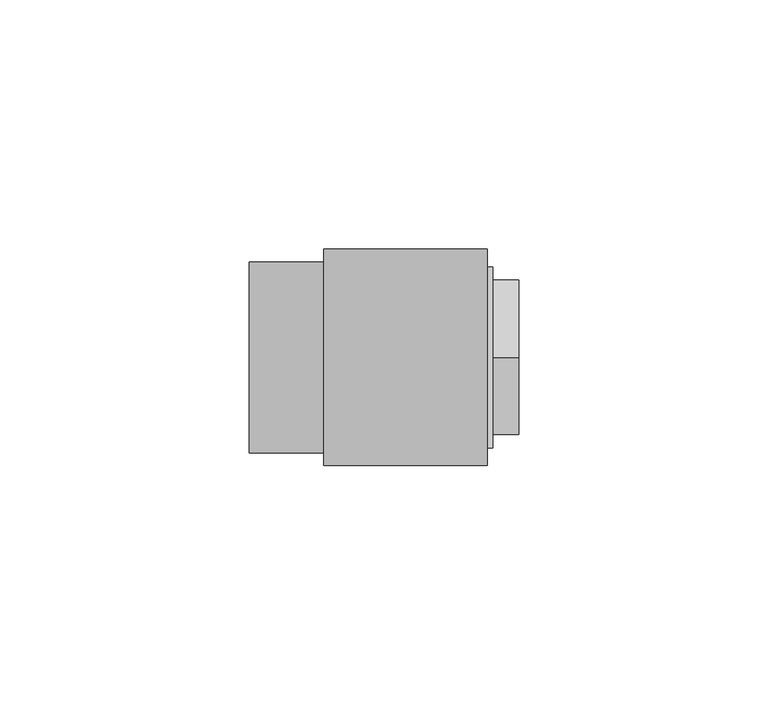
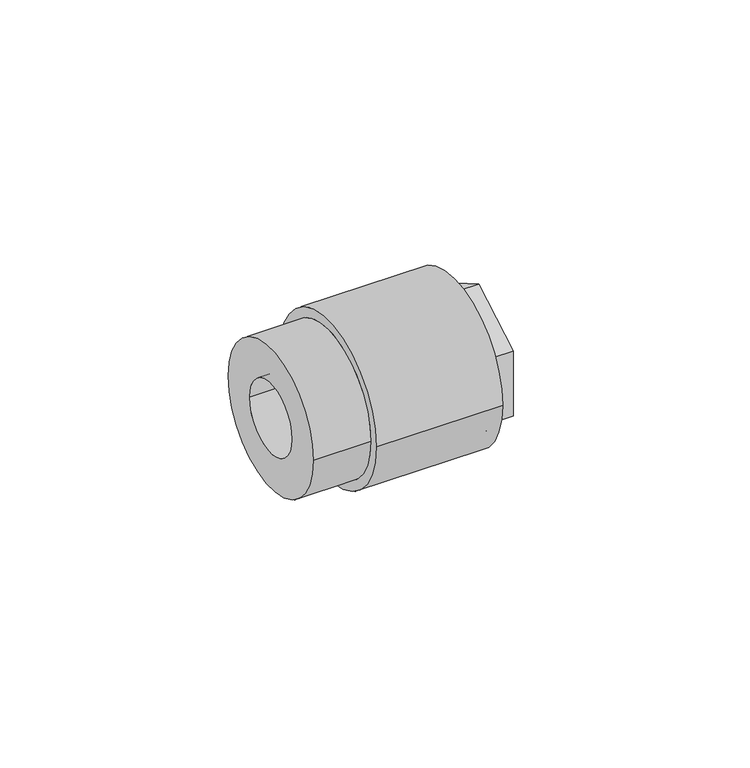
"""IFC4 building model written with IfcOpenShell, lengths in millimetres: pipe fitting geometry, Aquatherm - Fusion Outlet Transition Female : POTABLE BRASS - HEX."""

from ifc_helpers import new_model, si_unit, frame, origin, place, context, project, spatial, polyline, circle_curve, source, transform, mapped, element, save
from ifc_brep_helpers import plane_surface, cylinder_surface, revolved_surface, advanced_brep


def pipe_fitting_d414e5d5(model_context):
    return source(origin(), model_context, "Body", "AdvancedBrep", [
        advanced_brep(
        [(25.62225, 12.7, 0.0), (25.62225, -12.7, 0.0), (36.5363125, -12.7, 0.0), (36.5363125, 12.7, 0.0), (25.62225, 13.49375, 0.0), (25.62225, -13.49375, 0.0), (22.44725, 13.49375, 0.0), (22.44725, -13.49375, 0.0), (22.44725, 9.525, 0.0), (22.44725, -9.525, 0.0), (19.27225, 9.525, 0.0), (19.27225, -9.525, 0.0), (19.27225, 19.177, 0.0), (19.27225, -19.177, 0.0), (32.766, 19.177, 0.0), (32.766, -19.177, 0.0), (39.116, 13.49375, 0.0), (39.116, -13.49375, 0.0), (39.116, -15.494, 0.0), (39.116, -15.494, -8.9454651), (39.116, 0.0, -17.8909301), (39.116, 15.494, -8.9454651), (39.116, 15.494, 0.0), (39.116, 15.494, 8.9454651), (39.116, 0.0, 17.8909301), (39.116, -15.494, 8.9454651), (32.766, 18.161, 0.0), (32.766, -18.161, 0.0), (33.956625, 18.161, 0.0), (33.956625, -18.161, 0.0), (33.956625, 0.0, -17.8909301), (33.956625, -15.494, -8.9454651), (33.956625, -15.494, 8.9454651), (33.956625, 0.0, 17.8909301), (33.956625, 15.494, 8.9454651), (33.956625, 15.494, -8.9454651)],
        [
            (0, 1, circle_curve(frame((25.62225, 0.0, 0.0), z_axis=(-1.0, 0.0, 0.0), x_axis=(0.0, -1.0, 0.0)), 12.7)),
            (1, 2),
            (2, 3, circle_curve(frame((36.5363125, 0.0, 0.0), z_axis=(1.0, 0.0, 0.0), x_axis=(0.0, -1.0, 0.0)), 12.7)),
            (3, 0),
            (1, 0, circle_curve(frame((25.62225, 0.0, 0.0), z_axis=(-1.0, 0.0, 0.0), x_axis=(0.0, -1.0, 0.0)), 12.7)),
            (3, 2, circle_curve(frame((36.5363125, 0.0, 0.0), z_axis=(1.0, 0.0, 0.0), x_axis=(0.0, -1.0, 0.0)), 12.7)),
            (0, 4),
            (4, 5, circle_curve(frame((25.62225, 0.0, 0.0), z_axis=(-1.0, 0.0, 0.0), x_axis=(0.0, -1.0, 0.0)), 13.49375)),
            (5, 1),
            (5, 4, circle_curve(frame((25.62225, 0.0, 0.0), z_axis=(-1.0, 0.0, 0.0), x_axis=(0.0, -1.0, 0.0)), 13.49375)),
            (4, 6),
            (6, 7, circle_curve(frame((22.44725, 0.0, 0.0), z_axis=(-1.0, 0.0, 0.0), x_axis=(0.0, -1.0, 0.0)), 13.49375)),
            (7, 5),
            (7, 6, circle_curve(frame((22.44725, 0.0, 0.0), z_axis=(-1.0, 0.0, 0.0), x_axis=(0.0, -1.0, 0.0)), 13.49375)),
            (6, 8),
            (8, 9, circle_curve(frame((22.44725, 0.0, 0.0), z_axis=(-1.0, 0.0, 0.0), x_axis=(0.0, -1.0, 0.0)), 9.525)),
            (9, 7),
            (9, 8, circle_curve(frame((22.44725, 0.0, 0.0), z_axis=(-1.0, 0.0, 0.0), x_axis=(0.0, -1.0, 0.0)), 9.525)),
            (8, 10),
            (10, 11, circle_curve(frame((19.27225, 0.0, 0.0), z_axis=(-1.0, 0.0, 0.0), x_axis=(0.0, -1.0, 0.0)), 9.525)),
            (11, 9),
            (11, 10, circle_curve(frame((19.27225, 0.0, 0.0), z_axis=(-1.0, 0.0, 0.0), x_axis=(0.0, -1.0, 0.0)), 9.525)),
            (10, 12),
            (12, 13, circle_curve(frame((19.27225, 0.0, 0.0), z_axis=(-1.0, 0.0, 0.0), x_axis=(0.0, -1.0, 0.0)), 19.177)),
            (13, 11),
            (13, 12, circle_curve(frame((19.27225, 0.0, 0.0), z_axis=(-1.0, 0.0, 0.0), x_axis=(0.0, -1.0, 0.0)), 19.177)),
            (12, 14),
            (14, 15, circle_curve(frame((32.766, 0.0, 0.0), z_axis=(-1.0, 0.0, 0.0), x_axis=(0.0, -1.0, 0.0)), 19.177)),
            (15, 13),
            (15, 14, circle_curve(frame((32.766, 0.0, 0.0), z_axis=(-1.0, 0.0, 0.0), x_axis=(0.0, -1.0, 0.0)), 19.177)),
            (16, 17, circle_curve(frame((39.116, 0.0, 0.0), z_axis=(-1.0, 0.0, 0.0), x_axis=(0.0, -1.0, 0.0)), 13.49375)),
            (17, 18),
            (18, 19),
            (19, 20),
            (20, 21),
            (21, 22),
            (22, 16),
            (17, 16, circle_curve(frame((39.116, 0.0, 0.0), z_axis=(-1.0, 0.0, 0.0), x_axis=(0.0, -1.0, 0.0)), 13.49375)),
            (22, 23),
            (23, 24),
            (24, 25),
            (25, 18),
            (2, 17),
            (16, 3),
            (14, 26),
            (26, 27, circle_curve(frame((32.766, 0.0, 0.0), z_axis=(-1.0, 0.0, 0.0), x_axis=(0.0, -1.0, 0.0)), 18.161)),
            (27, 15),
            (27, 26, circle_curve(frame((32.766, 0.0, 0.0), z_axis=(-1.0, 0.0, 0.0), x_axis=(0.0, -1.0, 0.0)), 18.161)),
            (26, 28),
            (28, 29, circle_curve(frame((33.956625, 0.0, 0.0), z_axis=(-1.0, 0.0, 0.0), x_axis=(0.0, -1.0, 0.0)), 18.161)),
            (29, 27),
            (29, 28, circle_curve(frame((33.956625, 0.0, 0.0), z_axis=(-1.0, 0.0, 0.0), x_axis=(0.0, -1.0, 0.0)), 18.161)),
            (30, 31),
            (31, 32),
            (32, 33),
            (33, 34),
            (34, 35),
            (35, 30),
            (35, 21),
            (20, 30),
            (34, 23),
            (33, 24),
            (32, 25),
            (31, 19),
        ],
        [
            revolved_surface(polyline([(36.5363125, -12.7, 0.0), (25.62225, -12.7, 0.0)]), (40.9492251, 0.0, 0.0), (1.0, 0.0, 0.0)),
            plane_surface(frame((25.62225, 0.0, 0.0), z_axis=(-1.0, 0.0, 0.0), x_axis=(0.0, -1.0, 0.0))),
            revolved_surface(polyline([(25.62225, -13.49375, 0.0), (22.44725, -13.49375, 0.0)]), (40.9492251, 0.0, 0.0), (1.0, 0.0, 0.0)),
            plane_surface(frame((22.44725, 0.0, 0.0), z_axis=(1.0, 0.0, 0.0), x_axis=(0.0, -1.0, 0.0))),
            revolved_surface(polyline([(22.44725, -9.525, 0.0), (19.27225, -9.525, 0.0)]), (40.9492251, 0.0, 0.0), (1.0, 0.0, 0.0)),
            plane_surface(frame((19.27225, 0.0, 0.0), z_axis=(-1.0, 0.0, 0.0), x_axis=(0.0, -1.0, 0.0))),
            cylinder_surface(frame((40.9492251, 0.0, 0.0), z_axis=(1.0, 0.0, 0.0), x_axis=(0.0, -1.0, 0.0)), 19.177),
            plane_surface(frame((39.116, 0.0, 0.0), z_axis=(1.0, 0.0, 0.0), x_axis=(0.0, -1.0, 0.0))),
            revolved_surface(polyline([(39.116, -13.49375, 0.0), (36.5363125, -12.7, 0.0)]), (40.9492251, 0.0, 0.0), (1.0, 0.0, 0.0)),
            plane_surface(frame((32.766, 0.0, 0.0), z_axis=(1.0, 0.0, 0.0), x_axis=(0.0, -1.0, 0.0))),
            cylinder_surface(frame((40.9492251, 0.0, 0.0), z_axis=(1.0, 0.0, 0.0), x_axis=(0.0, -1.0, 0.0)), 18.161),
            plane_surface(frame((33.956625, 15.494, -8.9454651), z_axis=(1.0000000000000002, 0.0, 0.0), x_axis=(0.0, 0.8660254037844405, 0.49999999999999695))),
            plane_surface(frame((33.956625, 0.0, -17.8909301), z_axis=(0.0, 0.49999999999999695, -0.8660254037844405), x_axis=(1.0, 0.0, 0.0))),
            plane_surface(frame((33.956625, 15.494, -8.9454651), z_axis=(0.0, 1.0, 0.0), x_axis=(1.0, 0.0, 0.0))),
            plane_surface(frame((33.956625, 15.494, 8.9454651), z_axis=(0.0, 0.5000000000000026, 0.8660254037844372), x_axis=(1.0, 0.0, 0.0))),
            plane_surface(frame((33.956625, 0.0, 17.8909301), z_axis=(0.0, -0.499999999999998, 0.8660254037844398), x_axis=(1.0, 0.0, 0.0))),
            plane_surface(frame((33.956625, -15.494, 8.9454651), z_axis=(0.0, -1.0, 0.0), x_axis=(1.0, 0.0, 0.0))),
            plane_surface(frame((33.956625, -15.494, -8.9454651), z_axis=(0.0, -0.5000000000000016, -0.8660254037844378), x_axis=(1.0, 0.0, 0.0))),
        ],
        [
            (0, [[1, 2, 3, 4]]),
            (0, [[-2, 5, -4, 6]]),
            (1, [[-1, 7, 8, 9]]),
            (1, [[-5, -9, 10, -7]]),
            (2, [[-8, 11, 12, 13]]),
            (2, [[-10, -13, 14, -11]]),
            (3, [[-12, 15, 16, 17]]),
            (3, [[-14, -17, 18, -15]]),
            (4, [[-16, 19, 20, 21]]),
            (4, [[-18, -21, 22, -19]]),
            (5, [[-20, 23, 24, 25]]),
            (5, [[-22, -25, 26, -23]]),
            (6, [[-24, 27, 28, 29]]),
            (6, [[-26, -29, 30, -27]]),
            (7, [[31, 32, 33, 34, 35, 36, 37]]),
            (7, [[38, -37, 39, 40, 41, 42, -32]]),
            (8, [[-3, 43, -31, 44]]),
            (8, [[-6, -44, -38, -43]]),
            (9, [[-28, 45, 46, 47]]),
            (9, [[-30, -47, 48, -45]]),
            (10, [[-46, 49, 50, 51]]),
            (10, [[-48, -51, 52, -49]]),
            (11, [[-50, -52], [53, 54, 55, 56, 57, 58]]),
            (12, [[-58, 59, -35, 60]]),
            (13, [[-57, 61, -39, -36, -59]]),
            (14, [[-56, 62, -40, -61]]),
            (15, [[-55, 63, -41, -62]]),
            (16, [[-54, 64, -33, -42, -63]]),
            (17, [[-53, -60, -34, -64]]),
        ],
    ),
        advanced_brep(
        [(-14.8967568, 19.177, 0.0), (-14.8967568, -19.177, 0.0), (-14.8967568, 9.525, 0.0), (-14.8967568, -9.525, 0.0), (19.27225, 19.177, 0.0), (19.27225, -19.177, 0.0), (19.27225, 9.525, 0.0), (19.27225, -9.525, 0.0), (0.0, 19.177, 0.0), (0.0, -19.177, 0.0), (32.766, 21.717, 0.0), (32.766, -21.717, 0.0), (32.766, 19.177, 0.0), (32.766, -19.177, 0.0), (0.0, 21.717, 0.0), (0.0, -21.717, 0.0)],
        [
            (0, 1, circle_curve(frame((-14.8967568, 0.0, 0.0), z_axis=(-1.0, 0.0, 0.0), x_axis=(0.0, -1.0, 0.0)), 19.177)),
            (1, 0, circle_curve(frame((-14.8967568, 0.0, 0.0), z_axis=(-1.0, 0.0, 0.0), x_axis=(0.0, -1.0, 0.0)), 19.177)),
            (2, 3, circle_curve(frame((-14.8967568, 0.0, 0.0), z_axis=(1.0, 0.0, 0.0), x_axis=(0.0, -1.0, 0.0)), 9.525)),
            (3, 2, circle_curve(frame((-14.8967568, 0.0, 0.0), z_axis=(1.0, 0.0, 0.0), x_axis=(0.0, -1.0, 0.0)), 9.525)),
            (4, 5, circle_curve(frame((19.27225, 0.0, 0.0), z_axis=(1.0, 0.0, 0.0), x_axis=(0.0, -1.0, 0.0)), 19.177)),
            (5, 4, circle_curve(frame((19.27225, 0.0, 0.0), z_axis=(1.0, 0.0, 0.0), x_axis=(0.0, -1.0, 0.0)), 19.177)),
            (6, 7, circle_curve(frame((19.27225, 0.0, 0.0), z_axis=(-1.0, 0.0, 0.0), x_axis=(0.0, -1.0, 0.0)), 9.525)),
            (7, 6, circle_curve(frame((19.27225, 0.0, 0.0), z_axis=(-1.0, 0.0, 0.0), x_axis=(0.0, -1.0, 0.0)), 9.525)),
            (2, 6),
            (7, 3),
            (0, 8),
            (8, 9, circle_curve(frame((0.0, 0.0, 0.0), z_axis=(-1.0, 0.0, 0.0), x_axis=(0.0, -1.0, 0.0)), 19.177)),
            (9, 1),
            (9, 8, circle_curve(frame((0.0, 0.0, 0.0), z_axis=(-1.0, 0.0, 0.0), x_axis=(0.0, -1.0, 0.0)), 19.177)),
            (10, 11, circle_curve(frame((32.766, 0.0, 0.0), z_axis=(1.0, 0.0, 0.0), x_axis=(0.0, -1.0, 0.0)), 21.717)),
            (11, 10, circle_curve(frame((32.766, 0.0, 0.0), z_axis=(1.0, 0.0, 0.0), x_axis=(0.0, -1.0, 0.0)), 21.717)),
            (12, 13, circle_curve(frame((32.766, 0.0, 0.0), z_axis=(-1.0, 0.0, 0.0), x_axis=(0.0, -1.0, 0.0)), 19.177)),
            (13, 12, circle_curve(frame((32.766, 0.0, 0.0), z_axis=(-1.0, 0.0, 0.0), x_axis=(0.0, -1.0, 0.0)), 19.177)),
            (14, 15, circle_curve(frame((0.0, 0.0, 0.0), z_axis=(-1.0, 0.0, 0.0), x_axis=(0.0, -1.0, 0.0)), 21.717)),
            (15, 14, circle_curve(frame((0.0, 0.0, 0.0), z_axis=(-1.0, 0.0, 0.0), x_axis=(0.0, -1.0, 0.0)), 21.717)),
            (13, 5),
            (4, 12),
            (11, 15),
            (14, 10),
        ],
        [
            plane_surface(frame((-14.8967568, -9.525, 0.0), z_axis=(-1.0, 0.0, 0.0), x_axis=(0.0, 0.0, -1.0))),
            plane_surface(frame((19.27225, -9.525, 0.0), z_axis=(1.0, 0.0, 0.0), x_axis=(0.0, 0.0, 1.0))),
            revolved_surface(polyline([(19.27225, -9.525, 0.0), (-14.896756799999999, -9.525, 0.0)]), (19.27225, 0.0, 0.0), (1.0, 0.0, 0.0)),
            cylinder_surface(frame((0.0, 0.0, 0.0), z_axis=(-1.0, 0.0, 0.0), x_axis=(0.0, -1.0, 0.0)), 19.177),
            plane_surface(frame((32.766, -19.177, 0.0), z_axis=(1.0, 0.0, 0.0), x_axis=(0.0, 0.0, 1.0))),
            plane_surface(frame((0.0, -19.177, 0.0), z_axis=(-1.0, 0.0, 0.0), x_axis=(0.0, 0.0, -1.0))),
            revolved_surface(polyline([(32.766, -19.177, 0.0), (19.27225, -19.177, 0.0)]), (32.766, 0.0, 0.0), (1.0, 0.0, 0.0)),
            cylinder_surface(frame((0.0, 0.0, 0.0), z_axis=(-1.0, 0.0, 0.0), x_axis=(0.0, -1.0, 0.0)), 21.717),
        ],
        [
            (0, [[1, 2], [3, 4]]),
            (1, [[5, 6], [7, 8]]),
            (2, [[-3, 9, -8, 10]]),
            (2, [[-4, -10, -7, -9]]),
            (3, [[-1, 11, 12, 13]]),
            (3, [[-2, -13, 14, -11]]),
            (4, [[15, 16], [17, 18]]),
            (5, [[19, 20], [-12, -14]]),
            (6, [[-18, 21, -5, 22]]),
            (6, [[-17, -22, -6, -21]]),
            (7, [[-16, 23, -19, 24]]),
            (7, [[-15, -24, -20, -23]]),
        ],
    ),
    ])


if __name__ == "__main__":
    model = new_model("IFC4")
    model_context = context("Model", 3, world=origin())
    ifc_project = project(units=[si_unit("LENGTHUNIT", "METRE", prefix="MILLI")], contexts=[model_context])
    site = spatial("IfcSite", under=ifc_project)
    building = spatial("IfcBuilding", under=site)
    placement = place(None, origin())
    pipe_fitting_shape = pipe_fitting_d414e5d5(model_context)
    element("IfcPipeFitting", 1, ObjectType="Aquatherm - Fusion Outlet Transition Female : POTABLE BRASS - HEX", at=placement, inside=building, context=model_context, shape_type="MappedRepresentation", body=[
        mapped(pipe_fitting_shape, transform((0.0, 0.0, 0.0), x_axis=(1.0, 0.0, 0.0), y_axis=(0.0, 1.0, 0.0), z_axis=(0.0, 0.0, 1.0))),
    ])
    save(model, "model.ifc")
